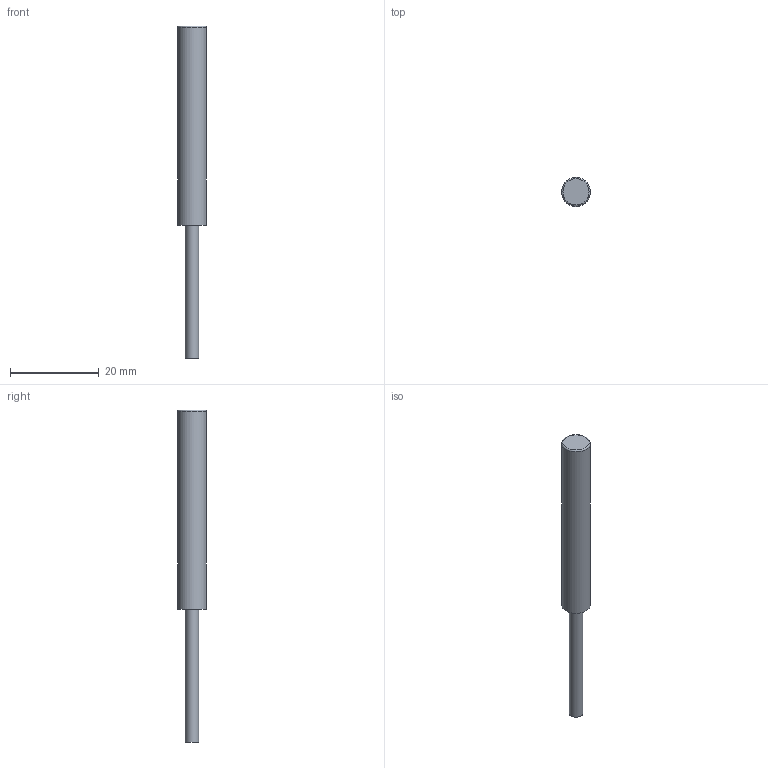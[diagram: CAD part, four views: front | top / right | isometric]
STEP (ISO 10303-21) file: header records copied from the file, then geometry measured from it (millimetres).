
FILE_DESCRIPTION(/* description */ (''),/* implementation_level */ '2;1');
FILE_NAME(/* name */ '电感式Φ6.5X45埋入出线.stp',/* time_stamp */ '2025-04-13T11:39:58+08:00',/* author */ (''),/* organization */ (''),/* preprocessor_version */ 'ST-DEVELOPER v16.7',/* originating_system */ 'SIEMENS PLM Software NX 1872',/* authorisation */ '');
FILE_SCHEMA (('AP203_CONFIGURATION_CONTROLLED_3D_DESIGN_OF_MECHANICAL_PARTS_AND_ASSEMBLIES_MIM_LF { 1 0 10303 403 2 1 2}'));
Length unit declared in the file: millimetre
Products named in the file (1): 电感式Φ6.5X45埋入出线
Bounding box: 6.5 x 6.5 x 75 mm (x, y, z)
Volume: 1704.9 mm3; surface area: 1265.4 mm2
Topology: 1 solids, 1 shells, 6 faces, 8 edges, 5 vertices
Faces by surface type: plane 3, cylinder 2, torus 1
Full cylindrical faces by diameter (mm): 3 x1, 6.5 x1
Entity records: 192 total; most frequent: DIRECTION 24, CARTESIAN_POINT 17, AXIS2_PLACEMENT_3D 12, EDGE_LOOP 10, ORIENTED_EDGE 10, FACE_BOUND 8, ADVANCED_FACE 6, DATE_AND_TIME 5
